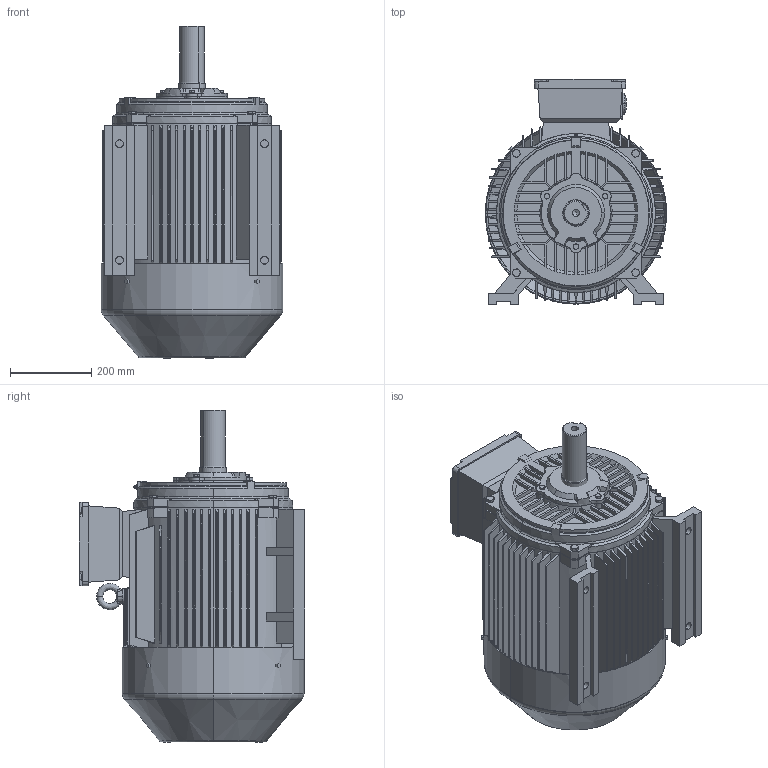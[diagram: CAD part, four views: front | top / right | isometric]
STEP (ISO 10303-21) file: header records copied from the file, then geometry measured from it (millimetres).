
FILE_DESCRIPTION (( 'STEP AP203' ), '1' );
FILE_NAME ('TE3-225S-4,8 B3上.STEP', '2019-12-23T02:12:53', ( '微软用户' ), ( '微软中国' ), 'SwSTEP 2.0', 'SolidWorks 2012', '' );
FILE_SCHEMA (( 'CONFIG_CONTROL_DESIGN' ));
Length unit declared in the file: millimetre
Products named in the file (14): TE3-225S-4,8 B3奻; 蚐戚; Y2-200~225 P24諉盄碟; hexagon head bolts-full thread gb_GB_FASTENER_BOLT_STBAB A M8X16-N; 8EJ.353.10054GX200~225P24諉盄碟裔; 8EJ.354.594Y2-200~225P24諉盄碟釱; eyebolts gb_GB_FASTENER_SCREWS_FRS M16-N; YX3-225 瑞欶; YE3-225-4,6,8（轴伸）; hex head bolts-full thread grade c gb_GB_FASTENER_BOLT_HHBFTC M12X25-N; hex head bolts-full thread grade c gb_GB_FASTENER_BOLT_HHBFTC M8X25-N; Y2-225-4,6,8轴承外盖（轴伸端）; Y2-225-4,6,8端盖（轴伸）文登8SLJ.013.00118; Y2-225S儂釱8LY2.225.034.001
Assembly tree (21 placements, depth 3):
  TE3-225S-4,8 B3奻
    Y2-225S儂釱8LY2.225.034.001
    Y2-225-4,6,8端盖（轴伸）文登8SLJ.013.00118
    Y2-225-4,6,8轴承外盖（轴伸端）
    hex head bolts-full thread grade c gb_GB_FASTENER_BOLT_HHBFTC M8X25-N  x3
    hex head bolts-full thread grade c gb_GB_FASTENER_BOLT_HHBFTC M12X25-N  x4
    YE3-225-4,6,8（轴伸）
    YX3-225 瑞欶
    eyebolts gb_GB_FASTENER_SCREWS_FRS M16-N
    Y2-200~225 P24諉盄碟
      8EJ.354.594Y2-200~225P24諉盄碟釱
      8EJ.353.10054GX200~225P24諉盄碟裔
      hexagon head bolts-full thread gb_GB_FASTENER_BOLT_STBAB A M8X16-N  x4
    蚐戚
Bounding box: 446 x 554 x 815 mm (x, y, z)
Volume: 58380386.1 mm3; surface area: 3575602.4 mm2
Topology: 21 solids, 21 shells, 2857 faces, 7053 edges, 4626 vertices
Faces by surface type: plane 2135, cylinder 303, cone 246, bspline 124, torus 43, sphere 6
Entity records: 92167 total; most frequent: CARTESIAN_POINT 27956, ORIENTED_EDGE 13232, DIRECTION 11781, EDGE_CURVE 6616, LINE 5003, VECTOR 5003, VERTEX_POINT 4363, AXIS2_PLACEMENT_3D 3389
